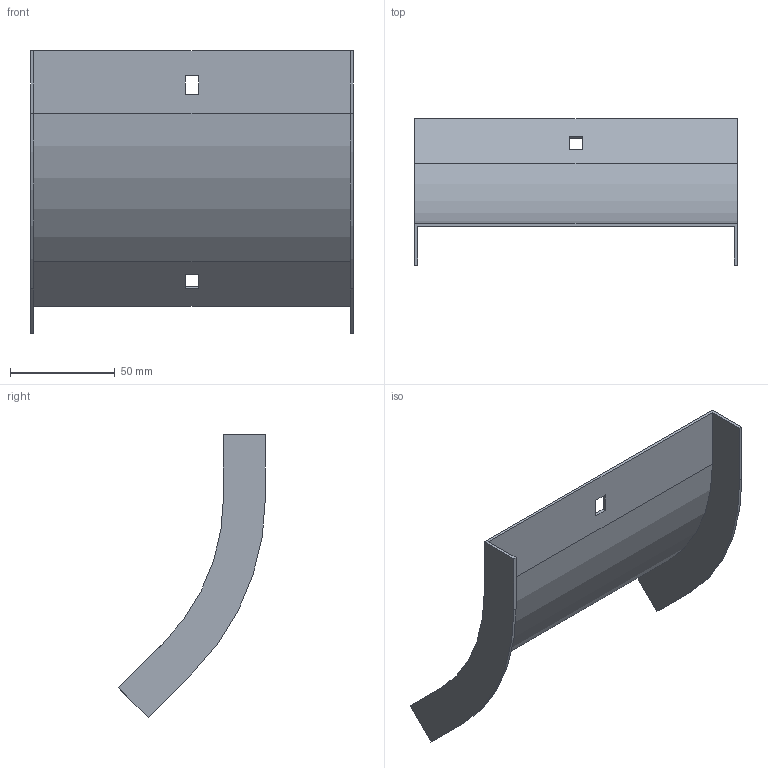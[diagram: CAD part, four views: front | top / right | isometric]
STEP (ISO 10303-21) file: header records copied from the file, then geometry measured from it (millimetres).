
FILE_DESCRIPTION (( 'STEP AP214' ), '1' );
FILE_NAME ('31G1P150.step', '2025-02-21T12:47:31', ( '' ), ( '' ), 'SwSTEP 2.0', 'SolidWorks 2023', '' );
FILE_SCHEMA (( 'AUTOMOTIVE_DESIGN' ));
Length unit declared in the file: millimetre
Products named in the file (1): 31G1P150
Bounding box: 154 x 70.06 x 135.01 mm (x, y, z)
Volume: 39783.3 mm3; surface area: 54167.8 mm2
Topology: 1 solids, 1 shells, 26 faces, 72 edges, 48 vertices
Faces by surface type: plane 22, cylinder 4
Entity records: 855 total; most frequent: CARTESIAN_POINT 147, ORIENTED_EDGE 144, DIRECTION 134, EDGE_CURVE 72, VECTOR 64, LINE 64, VERTEX_POINT 48, AXIS2_PLACEMENT_3D 35
